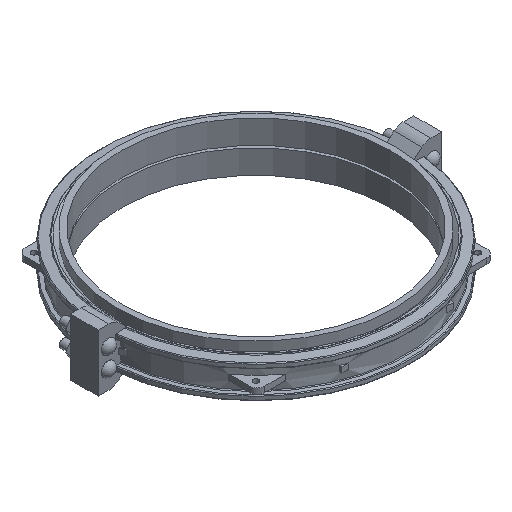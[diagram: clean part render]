
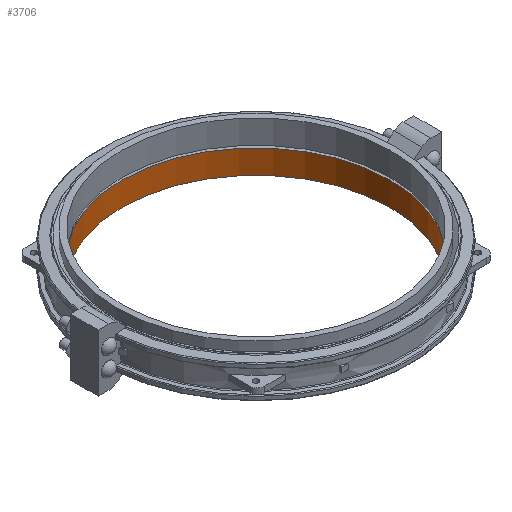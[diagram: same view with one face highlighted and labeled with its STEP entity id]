
A CAD part, isometric view. The second image highlights one B-rep face of the part: STEP entity #3706.
In plain terms, the highlighted cylindrical face has radius 609.6 mm (diameter 1219.2 mm), a full revolution.
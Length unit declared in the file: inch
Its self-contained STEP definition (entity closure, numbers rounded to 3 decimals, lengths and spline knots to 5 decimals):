
#156=CYLINDRICAL_SURFACE('',#4145,24.);
#386=FACE_OUTER_BOUND('',#616,.T.);
#616=EDGE_LOOP('',(#3200,#3201,#3202,#3203,#3204,#3205));
#901=LINE('',#6529,#1184);
#1184=VECTOR('',#5160,24.);
#1353=CIRCLE('',#4143,24.);
#1354=CIRCLE('',#4144,24.);
#1355=CIRCLE('',#4146,24.);
#1356=CIRCLE('',#4147,24.);
#1697=VERTEX_POINT('',#6523);
#1698=VERTEX_POINT('',#6524);
#1699=VERTEX_POINT('',#6528);
#1700=VERTEX_POINT('',#6530);
#2199=EDGE_CURVE('',#1697,#1698,#1353,.T.);
#2200=EDGE_CURVE('',#1698,#1697,#1354,.T.);
#2201=EDGE_CURVE('',#1698,#1699,#901,.T.);
#2202=EDGE_CURVE('',#1700,#1699,#1355,.T.);
#2203=EDGE_CURVE('',#1699,#1700,#1356,.T.);
#3200=ORIENTED_EDGE('',*,*,#2199,.T.);
#3201=ORIENTED_EDGE('',*,*,#2201,.T.);
#3202=ORIENTED_EDGE('',*,*,#2202,.F.);
#3203=ORIENTED_EDGE('',*,*,#2203,.F.);
#3204=ORIENTED_EDGE('',*,*,#2201,.F.);
#3205=ORIENTED_EDGE('',*,*,#2200,.T.);
#3706=ADVANCED_FACE('',(#386),#156,.F.);
#4143=AXIS2_PLACEMENT_3D('',#6525,#5154,#5155);
#4144=AXIS2_PLACEMENT_3D('',#6526,#5156,#5157);
#4145=AXIS2_PLACEMENT_3D('',#6527,#5158,#5159);
#4146=AXIS2_PLACEMENT_3D('',#6531,#5161,#5162);
#4147=AXIS2_PLACEMENT_3D('',#6532,#5163,#5164);
#5154=DIRECTION('center_axis',(0.,0.,-1.));
#5155=DIRECTION('ref_axis',(1.,0.,0.));
#5156=DIRECTION('center_axis',(0.,0.,-1.));
#5157=DIRECTION('ref_axis',(1.,0.,0.));
#5158=DIRECTION('center_axis',(0.,0.,-1.));
#5159=DIRECTION('ref_axis',(0.,1.,0.));
#5160=DIRECTION('',(0.,0.,1.));
#5161=DIRECTION('center_axis',(0.,0.,-1.));
#5162=DIRECTION('ref_axis',(1.,0.,0.));
#5163=DIRECTION('center_axis',(0.,0.,-1.));
#5164=DIRECTION('ref_axis',(1.,0.,0.));
#6523=CARTESIAN_POINT('',(0.,24.,0.));
#6524=CARTESIAN_POINT('',(0.,-24.,0.));
#6525=CARTESIAN_POINT('Origin',(0.,0.,0.));
#6526=CARTESIAN_POINT('Origin',(0.,0.,0.));
#6527=CARTESIAN_POINT('Origin',(0.,0.,2.125));
#6528=CARTESIAN_POINT('',(0.,-24.,4.25));
#6529=CARTESIAN_POINT('',(0.,-24.,2.125));
#6530=CARTESIAN_POINT('',(0.,24.,4.25));
#6531=CARTESIAN_POINT('Origin',(0.,0.,4.25));
#6532=CARTESIAN_POINT('Origin',(0.,0.,4.25));
